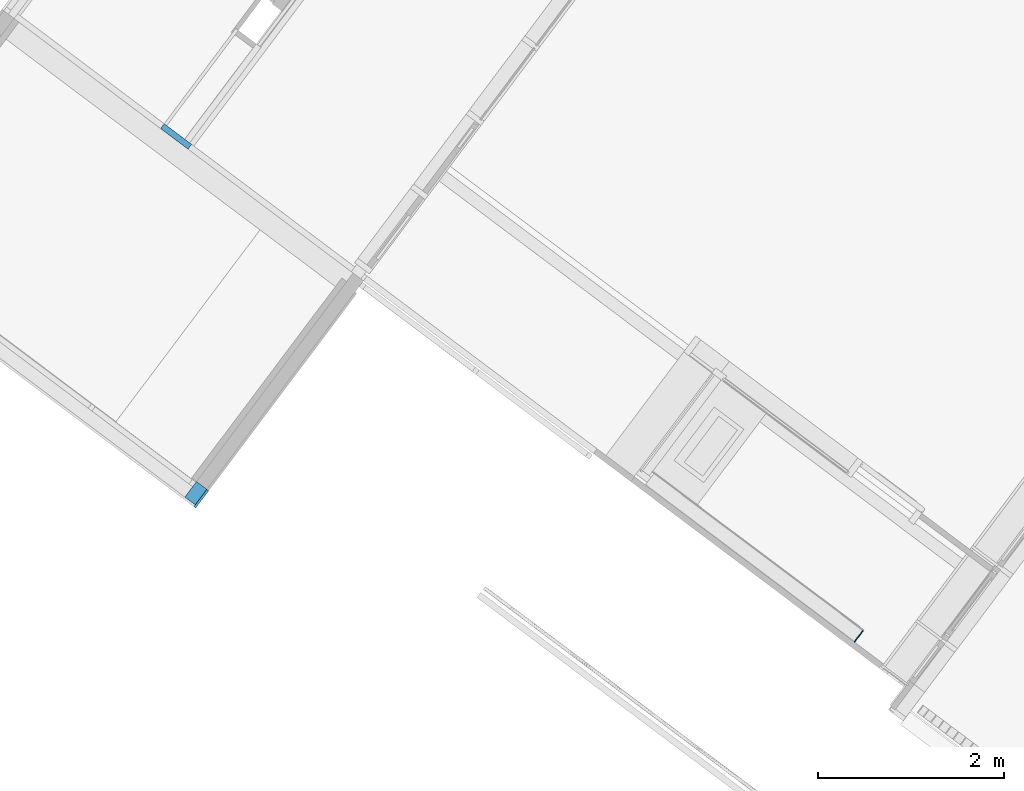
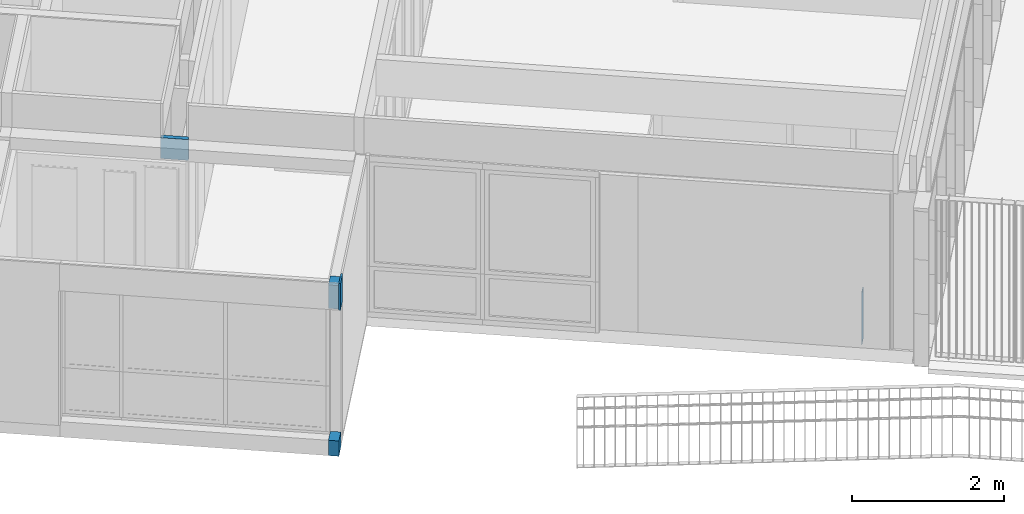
# One storey, part 134 of 243: 5 walls.
"""IFC2X3 building model written with IfcOpenShell, lengths in metres."""

from ifc_helpers import new_model, entity, si_unit, converted_unit, derived_unit, direction, frame, frame_2d, origin, place, context, subcontext, project, spatial, polyline, rectangle, extrude, clip, bounded_halfspace, material, layer, layer_set, layer_usage, type_object, element, save


model = new_model("IFC2X3")

# Units and contexts
model_context = context("Model", 3, precision=1e-05, world=origin(), true_north=direction((6.123031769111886e-17, 1.0)))
body_context = subcontext(model_context, "Body", "Model", "MODEL_VIEW")
ifc_project = project(units=[si_unit("LENGTHUNIT", "METRE"), si_unit("AREAUNIT", "SQUARE_METRE"), si_unit("VOLUMEUNIT", "CUBIC_METRE"), converted_unit("PLANEANGLEUNIT", "DEGREE", entity("IfcRatioMeasure", 0.017453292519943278), si_unit("PLANEANGLEUNIT", "RADIAN"), dimensions=[0, 0, 0, 0, 0, 0, 0]), si_unit("MASSUNIT", "GRAM", prefix="KILO"), derived_unit("MASSDENSITYUNIT", [(si_unit("MASSUNIT", "GRAM", prefix="KILO"), 1), (si_unit("LENGTHUNIT", "METRE"), -3)]), derived_unit("IONCONCENTRATIONUNIT", [(si_unit("MASSUNIT", "GRAM", prefix="KILO"), 1), (si_unit("LENGTHUNIT", "METRE"), -3)]), derived_unit("MOMENTOFINERTIAUNIT", [(si_unit("LENGTHUNIT", "METRE"), 4)]), si_unit("TIMEUNIT", "SECOND"), si_unit("FREQUENCYUNIT", "HERTZ"), si_unit("THERMODYNAMICTEMPERATUREUNIT", "DEGREE_CELSIUS"), derived_unit("THERMALTRANSMITTANCEUNIT", [(si_unit("MASSUNIT", "GRAM", prefix="KILO"), 1), (si_unit("THERMODYNAMICTEMPERATUREUNIT", "KELVIN"), -1), (si_unit("TIMEUNIT", "SECOND"), -3)]), derived_unit("THERMALCONDUCTANCEUNIT", [(si_unit("MASSUNIT", "GRAM", prefix="KILO"), 1), (si_unit("THERMODYNAMICTEMPERATUREUNIT", "KELVIN"), -1), (si_unit("TIMEUNIT", "SECOND"), -3), (si_unit("LENGTHUNIT", "METRE"), 1)]), derived_unit("VOLUMETRICFLOWRATEUNIT", [(si_unit("LENGTHUNIT", "METRE"), 3), (si_unit("TIMEUNIT", "SECOND"), -1)]), derived_unit("MASSFLOWRATEUNIT", [(si_unit("MASSUNIT", "GRAM", prefix="KILO"), 1), (si_unit("TIMEUNIT", "SECOND"), -1)]), derived_unit("ROTATIONALFREQUENCYUNIT", [(si_unit("TIMEUNIT", "SECOND"), -1)]), si_unit("ELECTRICCURRENTUNIT", "AMPERE"), si_unit("ELECTRICVOLTAGEUNIT", "VOLT"), si_unit("POWERUNIT", "WATT"), si_unit("FORCEUNIT", "NEWTON", prefix="KILO"), si_unit("ILLUMINANCEUNIT", "LUX"), si_unit("LUMINOUSFLUXUNIT", "LUMEN"), si_unit("LUMINOUSINTENSITYUNIT", "CANDELA"), derived_unit("USERDEFINED", [(si_unit("MASSUNIT", "GRAM", prefix="KILO"), -1), (si_unit("LENGTHUNIT", "METRE"), -2), (si_unit("TIMEUNIT", "SECOND"), 3), (si_unit("LUMINOUSFLUXUNIT", "LUMEN"), 1)]), derived_unit("USERDEFINED", [(si_unit("MASSUNIT", "GRAM", prefix="KILO"), 1), (si_unit("TIMEUNIT", "SECOND"), -3), (si_unit("LENGTHUNIT", "METRE"), 3), (si_unit("ELECTRICCURRENTUNIT", "AMPERE"), -2)]), derived_unit("SOUNDPOWERUNIT", [(si_unit("MASSUNIT", "GRAM", prefix="KILO"), 1), (si_unit("TIMEUNIT", "SECOND"), -3), (si_unit("LENGTHUNIT", "METRE"), 2)]), derived_unit("SOUNDPRESSUREUNIT", [(si_unit("MASSUNIT", "GRAM", prefix="KILO"), 1), (si_unit("LENGTHUNIT", "METRE"), -1), (si_unit("TIMEUNIT", "SECOND"), -2)]), derived_unit("LINEARVELOCITYUNIT", [(si_unit("LENGTHUNIT", "METRE"), 1), (si_unit("TIMEUNIT", "SECOND"), -1)]), si_unit("PRESSUREUNIT", "PASCAL"), derived_unit("USERDEFINED", [(si_unit("MASSUNIT", "GRAM", prefix="KILO"), 1), (si_unit("LENGTHUNIT", "METRE"), -2), (si_unit("TIMEUNIT", "SECOND"), -2)]), derived_unit("LINEARFORCEUNIT", [(si_unit("MASSUNIT", "GRAM", prefix="KILO"), 1), (si_unit("TIMEUNIT", "SECOND"), -2)]), derived_unit("PLANARFORCEUNIT", [(si_unit("MASSUNIT", "GRAM", prefix="KILO"), 1), (si_unit("LENGTHUNIT", "METRE"), -1), (si_unit("TIMEUNIT", "SECOND"), -2)]), derived_unit("SPECIFICHEATCAPACITYUNIT", [(si_unit("THERMODYNAMICTEMPERATUREUNIT", "KELVIN"), -1), (si_unit("LENGTHUNIT", "METRE"), 2), (si_unit("TIMEUNIT", "SECOND"), -2)]), derived_unit("HEATINGVALUEUNIT", [(si_unit("LENGTHUNIT", "METRE"), 2), (si_unit("TIMEUNIT", "SECOND"), -2)]), derived_unit("VAPORPERMEABILITYUNIT", [(si_unit("LENGTHUNIT", "METRE"), -1), (si_unit("TIMEUNIT", "SECOND"), 1)]), derived_unit("DYNAMICVISCOSITYUNIT", [(si_unit("MASSUNIT", "GRAM", prefix="KILO"), 1), (si_unit("TIMEUNIT", "SECOND"), -1), (si_unit("LENGTHUNIT", "METRE"), -1)]), derived_unit("THERMALEXPANSIONCOEFFICIENTUNIT", [(si_unit("THERMODYNAMICTEMPERATUREUNIT", "KELVIN"), -1)]), derived_unit("MODULUSOFELASTICITYUNIT", [(si_unit("MASSUNIT", "GRAM", prefix="KILO"), 1), (si_unit("LENGTHUNIT", "METRE"), -1), (si_unit("TIMEUNIT", "SECOND"), -2)]), derived_unit("ISOTHERMALMOISTURECAPACITYUNIT", [(si_unit("LENGTHUNIT", "METRE"), 3), (si_unit("MASSUNIT", "GRAM", prefix="KILO"), -1)]), derived_unit("MOISTUREDIFFUSIVITYUNIT", [(si_unit("TIMEUNIT", "SECOND"), -1), (si_unit("LENGTHUNIT", "METRE"), 2)])], contexts=[model_context])

# Site, building, storey
site_placement = place(None, frame((0.0, 0.0, 235.0), z_axis=(0.0, 0.0, 1.0), x_axis=(-0.7996477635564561, 0.6004693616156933, 0.0)))
site = spatial("IfcSite", under=ifc_project, at=site_placement, Name="Default", CompositionType="ELEMENT")
building_placement = place(site_placement, origin())
building = spatial("IfcBuilding", under=site, at=building_placement, CompositionType="ELEMENT")
storey_placement = place(building_placement, origin())
storey = spatial("IfcBuildingStorey", under=building, at=storey_placement, Name="P0- Escola", CompositionType="ELEMENT", Elevation=0.0)

# Walls
ifc_material_1 = material(Name="_Ceràmica- ENV")
ifc_layer_1 = layer(ifc_material_1, 0.14)
ifc_layer_set_1 = layer_set([ifc_layer_1], Name="Muro básico:ENV- Ceràmic- 14 cm")
ifc_layer_usage_1 = layer_usage(ifc_layer_set_1, "AXIS2", "POSITIVE", -0.07)
wall_type_1 = type_object("IfcWallType", Name="Muro básico:ENV- Ceràmic- 14 cm", PredefinedType="STANDARD", material=ifc_layer_set_1)
wall_1_placement = place(storey_placement, frame((13.315147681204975, -15.530191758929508, 2.1699999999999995), z_axis=(0.0, 0.0, 1.0), x_axis=(0.0, 1.0, 0.0)))
element("IfcWallStandardCase", 1, at=wall_1_placement, inside=storey, type_object=wall_type_1, material=ifc_layer_usage_1, Name="Muro básico:ENV- Ceràmic- 14 cm", ObjectType="Muro básico:ENV- Ceràmic- 14 cm", context=body_context, shape_type="SweptSolid", body=[
    extrude(rectangle(XDim=0.2099999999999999, YDim=0.1399999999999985, at=frame_2d((0.10499999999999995, 1.5265566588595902e-16), x_axis=(-1.0, 0.0))), origin(), (0.0, 0.0, 1.0), 0.37800000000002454),
])
wall_2_placement = place(storey_placement, frame((13.315147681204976, -15.530191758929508, -0.2), z_axis=(0.0, 0.0, 1.0), x_axis=(0.0, 1.0, 0.0)))
element("IfcWallStandardCase", 2, at=wall_2_placement, inside=storey, type_object=wall_type_1, material=ifc_layer_usage_1, Name="Muro básico:ENV- Ceràmic- 14 cm", ObjectType="Muro básico:ENV- Ceràmic- 14 cm", context=body_context, shape_type="SweptSolid", body=[
    extrude(rectangle(XDim=0.2099999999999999, YDim=0.1399999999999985, at=frame_2d((0.10499999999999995, 0.0), x_axis=(-1.0, 0.0))), origin(), (0.0, 0.0, 1.0), 0.24655977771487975),
])
ifc_material_2 = material(Name="_Guix laminat- ENV")
ifc_layer_2 = layer(ifc_material_2, 0.02)
ifc_material_3 = material(Name="_Aillament")
ifc_layer_3 = layer(ifc_material_3, 0.045)
ifc_layer_set_2 = layer_set([ifc_layer_2, ifc_layer_3], Name="Muro básico:REV- Guix Laminat Extradossat- Aillament- T1- 6,5 cm")
ifc_layer_usage_2 = layer_usage(ifc_layer_set_2, "AXIS2", "NEGATIVE", 0.032499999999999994)
wall_type_2 = type_object("IfcWallType", Name="Muro básico:REV- Guix Laminat Extradossat- Aillament- T1- 6,5 cm", PredefinedType="STANDARD", material=ifc_layer_set_2)
wall_3_placement = place(storey_placement, frame((15.980147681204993, -18.372691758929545, 2.265), z_axis=(0.0, 0.0, 1.0), x_axis=(-1.0, 0.0, 0.0)))
element("IfcWallStandardCase", 3, at=wall_3_placement, inside=storey, type_object=wall_type_2, material=ifc_layer_usage_2, Name="Muro básico:REV- Guix Laminat Extradossat- Aillament- T1- 6,5 cm", ObjectType="Muro básico:REV- Guix Laminat Extradossat- Aillament- T1- 6,5 cm", context=body_context, shape_type="Clipping", body=[
    clip(extrude(rectangle(XDim=0.3700000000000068, YDim=0.06499999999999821, at=frame_2d((0.1850000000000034, 0.0), x_axis=(-1.0, 0.0))), origin(), (0.0, 0.0, 1.0), 0.33500000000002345), bounded_halfspace(frame((0.3700000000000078, -0.03250000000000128, 0.0), z_axis=(0.0, 0.0, 1.0), x_axis=(0.0, 1.0, 0.0)), True, frame((0.3700000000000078, -0.03250000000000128, 0.0), z_axis=(0.0, 0.0, 1.0), x_axis=(0.0, 1.0, 0.0)), polyline([(0.0, 0.0), (0.06500000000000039, 0.0), (0.06500000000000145, 0.37000000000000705), (0.0, 0.3700000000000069), (0.0, 0.0)]))),
])
ifc_material_4 = material(Name="_Enrajolat Gresite- REV- PAV")
ifc_layer_4 = layer(ifc_material_4, 0.01)
ifc_material_5 = material(Name="_Morter Base - REV")
ifc_layer_5 = layer(ifc_material_5, 0.015)
ifc_layer_set_3 = layer_set([ifc_layer_4, ifc_layer_5], Name="Muro básico:REV- Enrajolat peces pasta vitrea- T1- int- 2,5 cm")
ifc_layer_usage_3 = layer_usage(ifc_layer_set_3, "AXIS2", "POSITIVE", -0.0125)
wall_type_3 = type_object("IfcWallType", Name="Muro básico:REV- Enrajolat peces pasta vitrea- T1- int- 2,5 cm", PredefinedType="STANDARD", material=ifc_layer_set_3)
wall_4_placement = place(storey_placement, frame((13.232647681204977, -15.295191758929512, 2.1699999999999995), z_axis=(0.0, 0.0, 1.0), x_axis=(0.0, -1.0, 0.0)))
element("IfcWallStandardCase", 4, at=wall_4_placement, inside=storey, type_object=wall_type_3, material=ifc_layer_usage_3, Name="Muro básico:REV- Enrajolat peces pasta vitrea- T1- int- 2,5 cm", ObjectType="Muro básico:REV- Enrajolat peces pasta vitrea- T1- int- 2,5 cm", context=body_context, shape_type="SweptSolid", body=[
    extrude(rectangle(XDim=0.2325000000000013, YDim=0.02499999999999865, at=frame_2d((0.11625000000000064, 1.8388068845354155e-16), x_axis=(-1.0, 0.0))), origin(), (0.0, 0.0, 1.0), 0.43000000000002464),
])
ifc_material_6 = material(Name="_Vinílic- REV")
ifc_layer_6 = layer(ifc_material_6, 0.01)
ifc_layer_set_4 = layer_set([ifc_layer_6], Name="Muro básico:REV- Vinilic- T1- 1 cm")
ifc_layer_usage_4 = layer_usage(ifc_layer_set_4, "AXIS2", "NEGATIVE", 0.005)
wall_type_4 = type_object("IfcWallType", Name="Muro básico:REV- Vinilic- T1- 1 cm", PredefinedType="STANDARD", material=ifc_layer_set_4)
wall_5_placement = place(storey_placement, frame((6.675147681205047, -18.560191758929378, 0.0), z_axis=(0.0, 0.0, 1.0), x_axis=(0.0, 1.0, 0.0)))
element("IfcWallStandardCase", 5, at=wall_5_placement, inside=storey, type_object=wall_type_4, material=ifc_layer_usage_4, Name="Muro básico:REV- Vinilic- T1- 1 cm", ObjectType="Muro básico:REV- Vinilic- T1- 1 cm", context=body_context, shape_type="SweptSolid", body=[
    extrude(rectangle(XDim=0.1549999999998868, YDim=0.009999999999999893, at=frame_2d((0.0774999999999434, 0.0), x_axis=(-1.0, 0.0))), origin(), (0.0, 0.0, 1.0), 0.8299999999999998),
])

save(model, "model.ifc")
